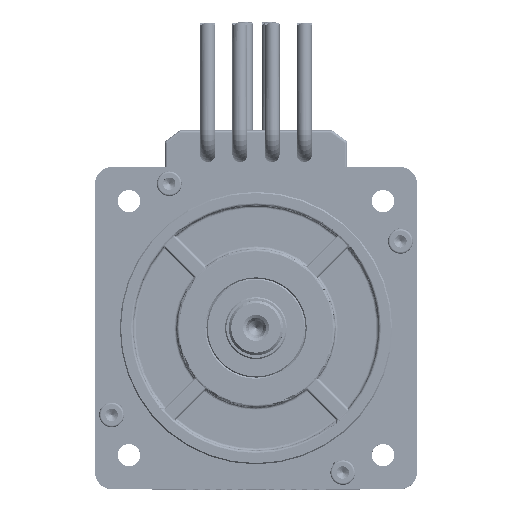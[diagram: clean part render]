
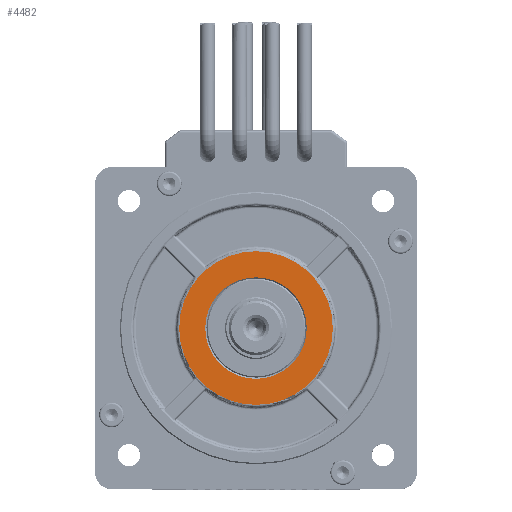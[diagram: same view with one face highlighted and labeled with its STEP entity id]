
A CAD part, top view. The second image highlights one B-rep face of the part: STEP entity #4482.
In plain terms, the highlighted planar face has unit normal (0, 0, 1).
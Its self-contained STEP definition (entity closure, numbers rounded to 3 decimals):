
#1598 = VERTEX_POINT ( 'NONE', #48986 ) ;
#2118 = DIRECTION ( 'NONE',  ( 0., 0., 1. ) ) ;
#4482 = ADVANCED_FACE ( 'NONE', ( #56024, #100088 ), #69254, .F. ) ;
#4801 = CARTESIAN_POINT ( 'NONE',  ( 0., -31., 92. ) ) ;
#5235 = AXIS2_PLACEMENT_3D ( 'NONE', #62610, #2118, #92079 ) ;
#7949 = CARTESIAN_POINT ( 'NONE',  ( 58.113, -58.113, 92. ) ) ;
#12035 = VERTEX_POINT ( 'NONE', #4801 ) ;
#13570 = ORIENTED_EDGE ( 'NONE', *, *, #20156, .T. ) ;
#16546 = DIRECTION ( 'NONE',  ( 0., -1., 0. ) ) ;
#17394 = AXIS2_PLACEMENT_3D ( 'NONE', #23932, #126203, #54449 ) ;
#20156 = EDGE_CURVE ( 'NONE', #61530, #12035, #36838, .T. ) ;
#23932 = CARTESIAN_POINT ( 'NONE',  ( 0., 0., 92. ) ) ;
#36838 = CIRCLE ( 'NONE', #70575, 31. ) ;
#41990 = EDGE_CURVE ( 'NONE', #12035, #61530, #64886, .T. ) ;
#42637 = CARTESIAN_POINT ( 'NONE',  ( 0., 20.5, 92. ) ) ;
#48184 = DIRECTION ( 'NONE',  ( 0., -1., 0. ) ) ;
#48986 = CARTESIAN_POINT ( 'NONE',  ( 0., -20.5, 92. ) ) ;
#51255 = EDGE_LOOP ( 'NONE', ( #70231, #13570 ) ) ;
#54449 = DIRECTION ( 'NONE',  ( 0., -1., 0. ) ) ;
#56024 = FACE_OUTER_BOUND ( 'NONE', #51255, .T. ) ;
#58001 = VERTEX_POINT ( 'NONE', #42637 ) ;
#60842 = CIRCLE ( 'NONE', #129579, 20.5 ) ;
#61530 = VERTEX_POINT ( 'NONE', #130137 ) ;
#62610 = CARTESIAN_POINT ( 'NONE',  ( 0., 0., 92. ) ) ;
#64886 = CIRCLE ( 'NONE', #5235, 31. ) ;
#69254 = PLANE ( 'NONE',  #121236 ) ;
#70231 = ORIENTED_EDGE ( 'NONE', *, *, #41990, .T. ) ;
#70575 = AXIS2_PLACEMENT_3D ( 'NONE', #104420, #123829, #123381 ) ;
#70940 = EDGE_CURVE ( 'NONE', #58001, #1598, #60842, .T. ) ;
#77400 = DIRECTION ( 'NONE',  ( 0., 0., -1. ) ) ;
#78042 = DIRECTION ( 'NONE',  ( 0., 0., -1. ) ) ;
#81001 = ORIENTED_EDGE ( 'NONE', *, *, #70940, .T. ) ;
#92079 = DIRECTION ( 'NONE',  ( 0., -1., 0. ) ) ;
#94235 = EDGE_LOOP ( 'NONE', ( #81001, #107118 ) ) ;
#100088 = FACE_BOUND ( 'NONE', #94235, .T. ) ;
#104420 = CARTESIAN_POINT ( 'NONE',  ( 0., 0., 92. ) ) ;
#107118 = ORIENTED_EDGE ( 'NONE', *, *, #127489, .T. ) ;
#111667 = CIRCLE ( 'NONE', #17394, 20.5 ) ;
#117977 = CARTESIAN_POINT ( 'NONE',  ( 0., 0., 92. ) ) ;
#121236 = AXIS2_PLACEMENT_3D ( 'NONE', #7949, #78042, #48184 ) ;
#123381 = DIRECTION ( 'NONE',  ( 0., -1., 0. ) ) ;
#123829 = DIRECTION ( 'NONE',  ( 0., 0., 1. ) ) ;
#126203 = DIRECTION ( 'NONE',  ( 0., 0., -1. ) ) ;
#127489 = EDGE_CURVE ( 'NONE', #1598, #58001, #111667, .T. ) ;
#129579 = AXIS2_PLACEMENT_3D ( 'NONE', #117977, #77400, #16546 ) ;
#130137 = CARTESIAN_POINT ( 'NONE',  ( 0., 31., 92. ) ) ;
